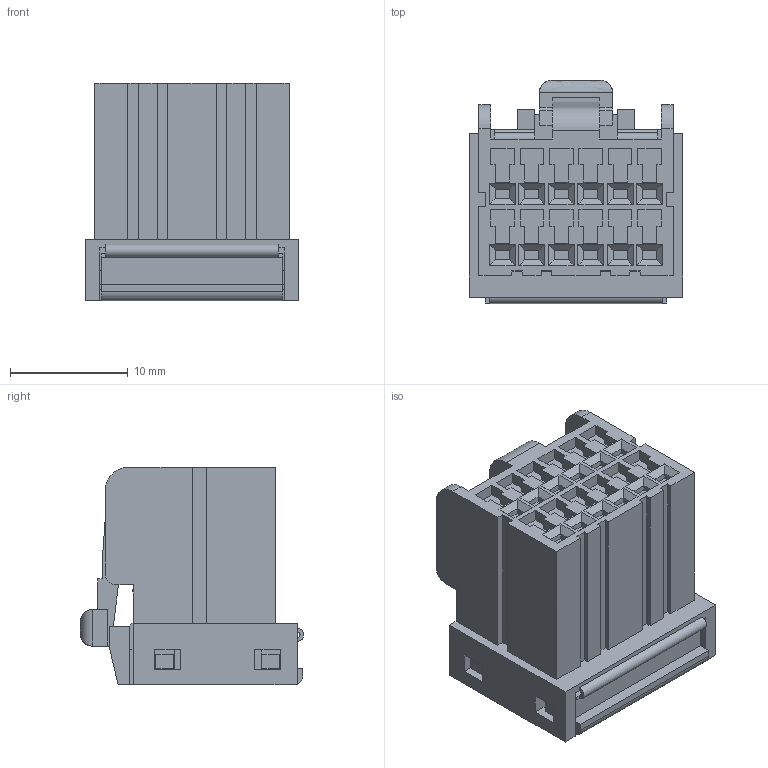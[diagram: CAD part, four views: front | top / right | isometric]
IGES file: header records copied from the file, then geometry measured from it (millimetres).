
Start section:  PTC IGES file: c-174045-2-c1-3d.igs
Global section: file name: c-174045-2-c1-3d.igs; native system: Pro/ENGINEER by Parametric Technology Corporation; preprocessor: 2005450; author: workeradm; organization: Unknown; date: 081231.104230; units: millimetre
Bounding box: 18.1 x 18.95 x 18.5 mm (x, y, z)
Surface area: 2658.8 mm2 (no closed solid volume)
Topology: 0 solids, 0 shells, 447 faces, 2366 edges, 2366 vertices
Faces by surface type: bspline 430, revolution 17
